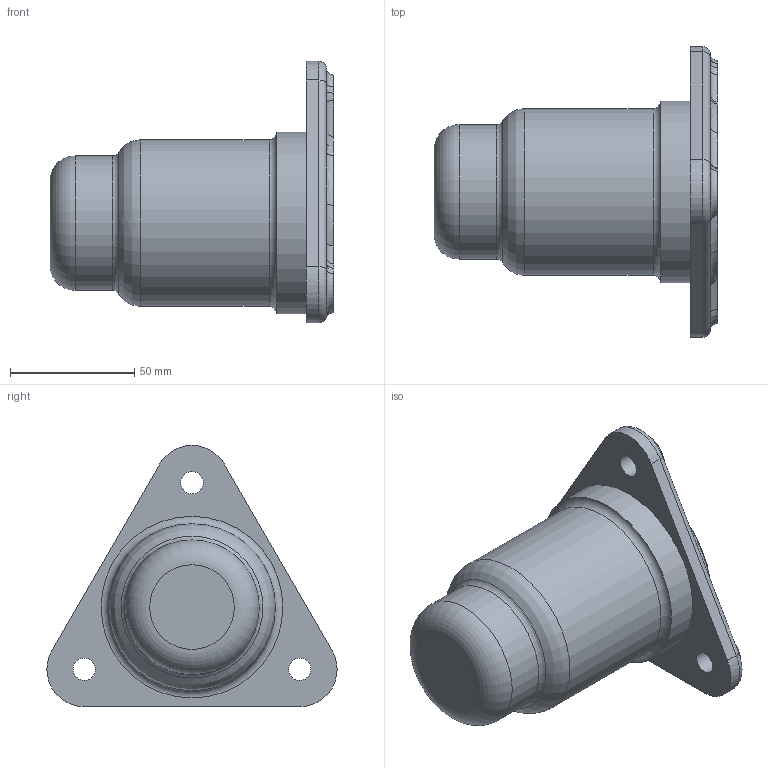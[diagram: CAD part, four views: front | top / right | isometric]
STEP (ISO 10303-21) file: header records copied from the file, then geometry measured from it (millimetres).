
FILE_DESCRIPTION(/* description */ (''),/* implementation_level */ '2;1');
FILE_NAME(/* name */ 'C:\Users\vip\Desktop\610105E1007\610105E1007-3D.stp',/* time_stamp */ '2021-01-16T11:21:07+09:00',/* author */ ('vip'),/* organization */ (''),/* preprocessor_version */ 'ST-DEVELOPER v15.6',/* originating_system */ 'Autodesk Inventor 2015',/* authorisation */ '');
FILE_SCHEMA (('AUTOMOTIVE_DESIGN { 1 0 10303 214 3 1 1 }'));
Length unit declared in the file: millimetre
Products named in the file (1): 610105E1007-3D
Bounding box: 114 x 116.6 x 105 mm (x, y, z)
Volume: 240757.6 mm3; surface area: 56152.9 mm2
Topology: 1 solids, 2 shells, 90 faces, 197 edges, 115 vertices
Faces by surface type: cylinder 34, torus 26, plane 17, bspline 9, cone 4
Full cylindrical faces by diameter (mm): 3.242 x4, 9 x3, 24 x1, 35 x1, 42 x1, 47 x2, 53 x1, 54 x1, 67 x1, 73 x1
Entity records: 2631 total; most frequent: CARTESIAN_POINT 797, DIRECTION 398, ORIENTED_EDGE 324, AXIS2_PLACEMENT_3D 184, EDGE_CURVE 162, EDGE_LOOP 128, VERTEX_POINT 108, CIRCLE 102
